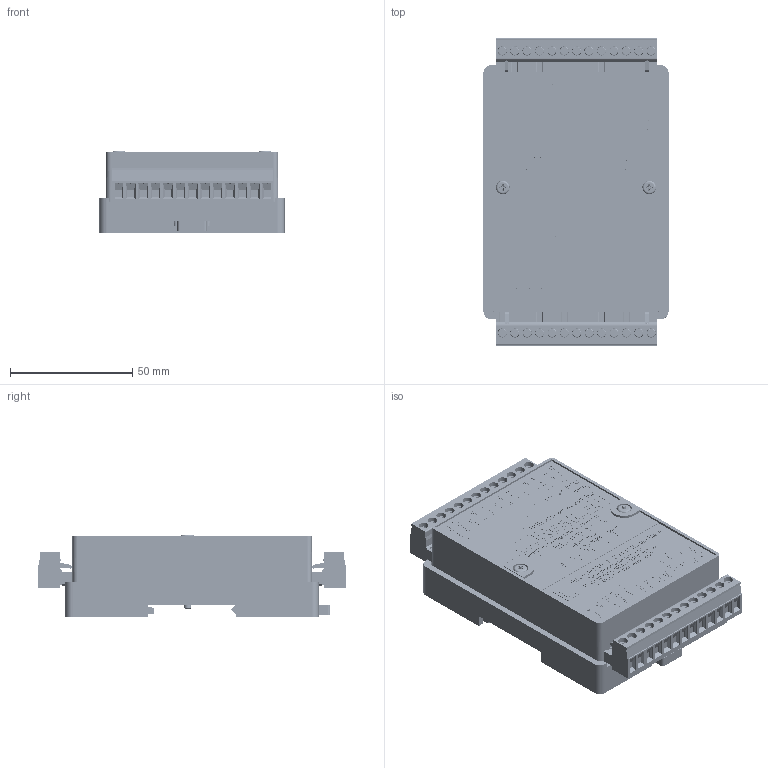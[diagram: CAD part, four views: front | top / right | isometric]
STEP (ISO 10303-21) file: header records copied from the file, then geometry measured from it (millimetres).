
FILE_DESCRIPTION(('STEP AP214'), '1');
FILE_NAME('NL-16DO-24V', '', ('UNSPECIFIED'), ('UNSPECIFIED'), 'C3D Converter', 'C3D Toolkit', '');
FILE_SCHEMA(('AUTOMOTIVE_DESIGN { 1 0 10303 214 3 1 1}'));
Length unit declared in the file: millimetre
Bounding box: 75.8 x 126.21 x 33.5 mm (x, y, z)
Volume: 85089.8 mm3; surface area: 90336.1 mm2
Topology: 2 solids, 2 shells, 8671 faces, 24261 edges, 16255 vertices
Faces by surface type: plane 4121, extrusion 3859, cylinder 504, torus 118, cone 68, bspline 1
Full cylindrical faces by diameter (mm): 1 x2, 1.4 x26, 2.5 x4, 3 x30, 3.38 x2, 3.6 x4, 3.95 x26, 4 x2, 5.6 x2, 6.3 x2, 6.4 x2, 8 x2
Entity records: 422472 total; most frequent: CARTESIAN_POINT 144442, ORIENTED_EDGE 48148, DIRECTION 31249, EDGE_CURVE 24074, VECTOR 17793, VERTEX_POINT 16253, LINE 13934, B_SPLINE_CURVE_WITH_KNOTS 12050
